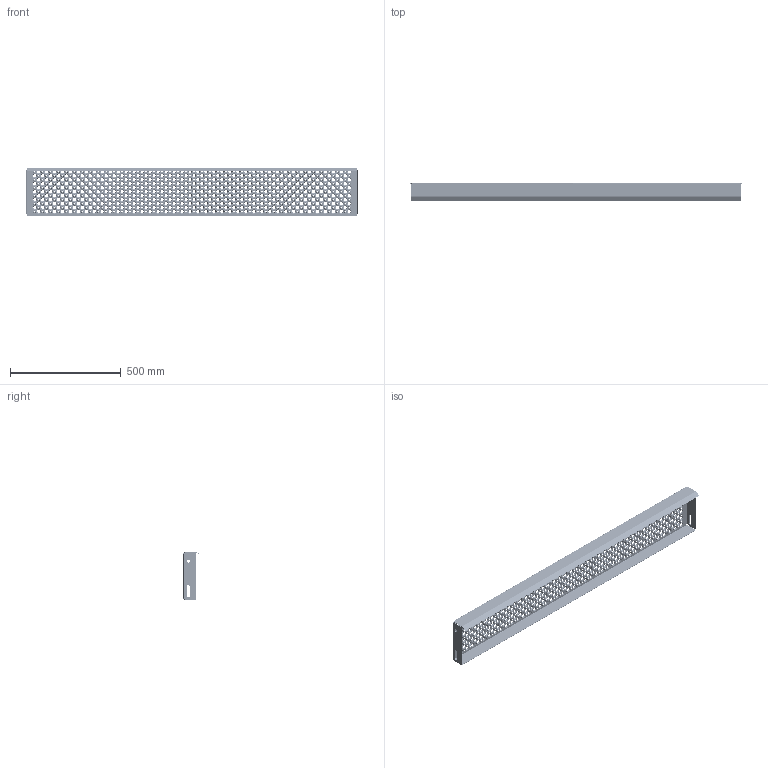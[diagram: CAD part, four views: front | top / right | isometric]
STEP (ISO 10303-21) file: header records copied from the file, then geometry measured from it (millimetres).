
FILE_DESCRIPTION (( 'STEP AP203' ), '1' );
FILE_NAME ('80262115_Lejdertrin_215x1500x60_mm_.STEP', '2015-01-14T12:02:29', ( '' ), ( '' ), 'SwSTEP 2.0', 'SolidWorks 2013', '' );
FILE_SCHEMA (( 'CONFIG_CONTROL_DESIGN' ));
Length unit declared in the file: millimetre
Products named in the file (1): 80262115_Lejdertrin_215x1500x60_mm_
Bounding box: 1500 x 84.17 x 215 mm (x, y, z)
Volume: 1030150.6 mm3; surface area: 1102510.9 mm2
Topology: 1 solids, 1 shells, 4476 faces, 12502 edges, 8028 vertices
Faces by surface type: cone 2640, torus 1760, cylinder 36, plane 32, bspline 8
Full cylindrical faces by diameter (mm): 14 x2
Entity records: 102977 total; most frequent: DIRECTION 19702, CARTESIAN_POINT 15825, ORIENTED_EDGE 10920, EDGE_LOOP 10646, AXIS2_PLACEMENT_3D 9805, FACE_OUTER_BOUND 6238, EDGE_CURVE 5460, VERTEX_POINT 5388
